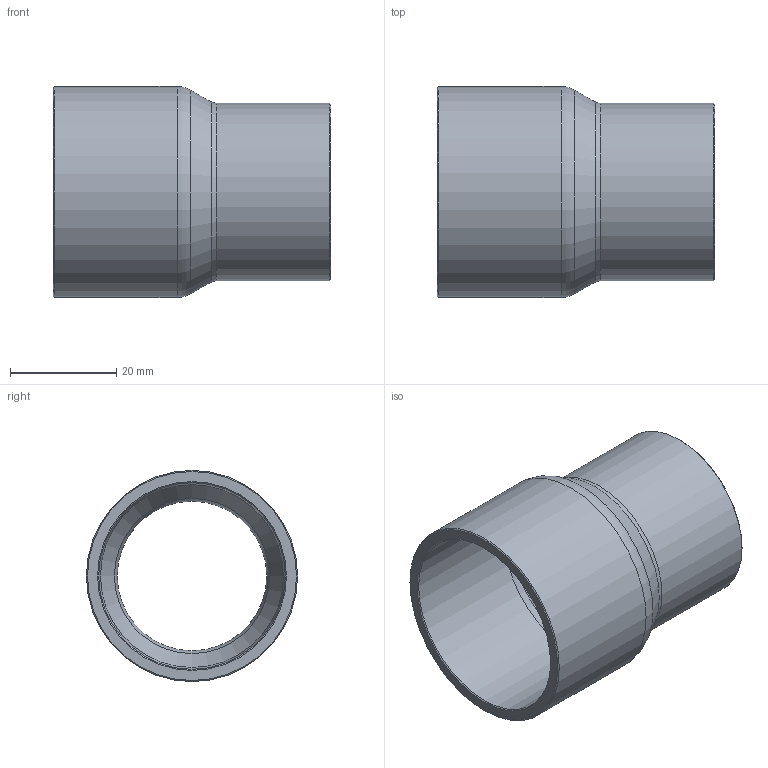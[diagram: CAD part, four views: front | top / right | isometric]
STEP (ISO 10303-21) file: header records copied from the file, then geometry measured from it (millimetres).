
FILE_DESCRIPTION((''),'2;1');
FILE_NAME('G:\SANHA-Ternat\Technik\Management\Bouwmaten + markeringen\z-maattekeningen 3D\29000s\29240138118_3d.stp','2017-08-04T11:33:49',('vdvijverd'),(''),'Autodesk Inventor 2009','Autodesk Inventor 2009','');
FILE_SCHEMA(('AUTOMOTIVE_DESIGN { 1 0 10303 214 1 1 1 1 }'));
Length unit declared in the file: millimetre
Products named in the file (1): 29240138118_3d
Bounding box: 52.2 x 39.7 x 39.7 mm (x, y, z)
Volume: 13260.6 mm3; surface area: 11869.2 mm2
Topology: 1 solids, 1 shells, 17 faces, 32 edges, 17 vertices
Faces by surface type: cone 6, cylinder 4, bspline 3, plane 2, torus 2
Full cylindrical faces by diameter (mm): 28.725 x1, 33.325 x1, 35.105 x1, 39.705 x1
Entity records: 494 total; most frequent: CARTESIAN_POINT 184, DIRECTION 64, ORIENTED_EDGE 34, EDGE_LOOP 34, AXIS2_PLACEMENT_3D 32, VERTEX_POINT 17, CIRCLE 17, EDGE_CURVE 17
